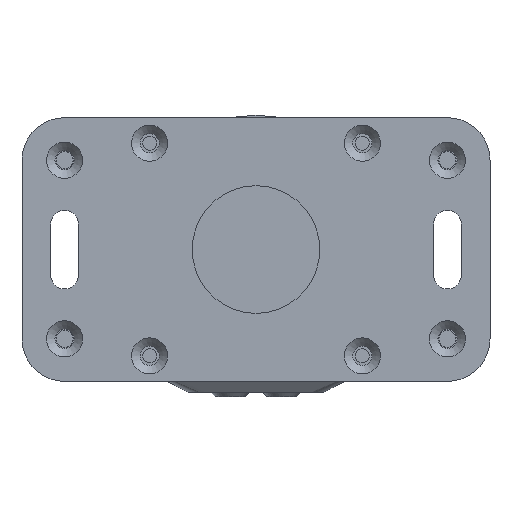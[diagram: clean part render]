
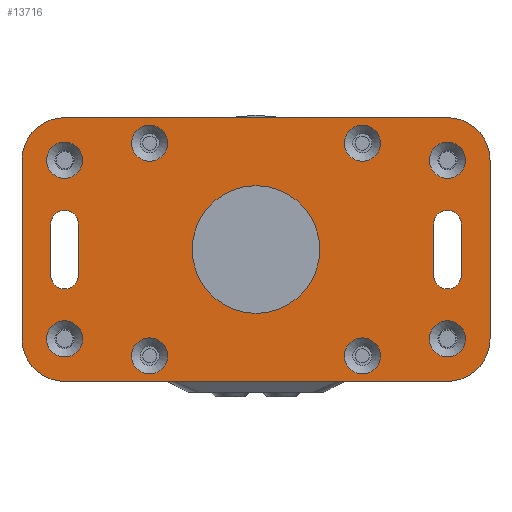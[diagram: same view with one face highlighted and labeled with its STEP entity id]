
A CAD part, front view. The second image highlights one B-rep face of the part: STEP entity #13716.
In plain terms, the highlighted planar face has unit normal (0, -1, 0).
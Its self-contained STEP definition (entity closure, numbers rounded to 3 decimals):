
#3291=LINE('',#50273,#5342);
#3292=LINE('',#50278,#5343);
#3293=LINE('',#50282,#5344);
#3294=LINE('',#50286,#5345);
#3295=LINE('',#50292,#5346);
#3296=LINE('',#50296,#5347);
#3297=LINE('',#50300,#5348);
#3298=LINE('',#50304,#5349);
#5342=VECTOR('',#42226,1.);
#5343=VECTOR('',#42229,1.);
#5344=VECTOR('',#42232,1.);
#5345=VECTOR('',#42235,1.);
#5346=VECTOR('',#42240,1.);
#5347=VECTOR('',#42243,1.);
#5348=VECTOR('',#42246,1.);
#5349=VECTOR('',#42249,1.);
#13716=ADVANCED_FACE('',(#16637,#16638,#16639,#16640,#16641,#16642,#16643,
#16644,#16645,#16646,#16647,#16648),#15780,.T.);
#15780=PLANE('',#39243);
#16637=FACE_BOUND('',#17196,.T.);
#16638=FACE_BOUND('',#17197,.T.);
#16639=FACE_BOUND('',#17198,.T.);
#16640=FACE_BOUND('',#17199,.T.);
#16641=FACE_BOUND('',#17200,.T.);
#16642=FACE_BOUND('',#17201,.T.);
#16643=FACE_BOUND('',#17202,.T.);
#16644=FACE_BOUND('',#17203,.T.);
#16645=FACE_BOUND('',#17204,.T.);
#16646=FACE_BOUND('',#17205,.T.);
#16647=FACE_BOUND('',#17206,.T.);
#16648=FACE_BOUND('',#17207,.T.);
#17196=EDGE_LOOP('',(#19593,#19594,#19595,#19596,#19597,#19598,#19599,#19600));
#17197=EDGE_LOOP('',(#19601,#19602,#19603,#19604));
#17198=EDGE_LOOP('',(#19605,#19606,#19607,#19608));
#17199=EDGE_LOOP('',(#19609));
#17200=EDGE_LOOP('',(#19610));
#17201=EDGE_LOOP('',(#19611));
#17202=EDGE_LOOP('',(#19612));
#17203=EDGE_LOOP('',(#19613));
#17204=EDGE_LOOP('',(#19614));
#17205=EDGE_LOOP('',(#19615));
#17206=EDGE_LOOP('',(#19616));
#17207=EDGE_LOOP('',(#19617));
#19593=ORIENTED_EDGE('',*,*,#32395,.T.);
#19594=ORIENTED_EDGE('',*,*,#32396,.T.);
#19595=ORIENTED_EDGE('',*,*,#32397,.T.);
#19596=ORIENTED_EDGE('',*,*,#32398,.T.);
#19597=ORIENTED_EDGE('',*,*,#32399,.T.);
#19598=ORIENTED_EDGE('',*,*,#32400,.T.);
#19599=ORIENTED_EDGE('',*,*,#32401,.T.);
#19600=ORIENTED_EDGE('',*,*,#32402,.T.);
#19601=ORIENTED_EDGE('',*,*,#32403,.F.);
#19602=ORIENTED_EDGE('',*,*,#32404,.F.);
#19603=ORIENTED_EDGE('',*,*,#32405,.F.);
#19604=ORIENTED_EDGE('',*,*,#32406,.F.);
#19605=ORIENTED_EDGE('',*,*,#32407,.F.);
#19606=ORIENTED_EDGE('',*,*,#32408,.F.);
#19607=ORIENTED_EDGE('',*,*,#32409,.F.);
#19608=ORIENTED_EDGE('',*,*,#32410,.F.);
#19609=ORIENTED_EDGE('',*,*,#32411,.F.);
#19610=ORIENTED_EDGE('',*,*,#32394,.T.);
#19611=ORIENTED_EDGE('',*,*,#32412,.T.);
#19612=ORIENTED_EDGE('',*,*,#32413,.T.);
#19613=ORIENTED_EDGE('',*,*,#32414,.T.);
#19614=ORIENTED_EDGE('',*,*,#32415,.T.);
#19615=ORIENTED_EDGE('',*,*,#32416,.T.);
#19616=ORIENTED_EDGE('',*,*,#32417,.T.);
#19617=ORIENTED_EDGE('',*,*,#32418,.T.);
#29312=VERTEX_POINT('',#50271);
#29313=VERTEX_POINT('',#50274);
#29314=VERTEX_POINT('',#50275);
#29315=VERTEX_POINT('',#50277);
#29316=VERTEX_POINT('',#50279);
#29317=VERTEX_POINT('',#50281);
#29318=VERTEX_POINT('',#50283);
#29319=VERTEX_POINT('',#50285);
#29320=VERTEX_POINT('',#50287);
#29321=VERTEX_POINT('',#50290);
#29322=VERTEX_POINT('',#50291);
#29323=VERTEX_POINT('',#50293);
#29324=VERTEX_POINT('',#50295);
#29325=VERTEX_POINT('',#50298);
#29326=VERTEX_POINT('',#50299);
#29327=VERTEX_POINT('',#50301);
#29328=VERTEX_POINT('',#50303);
#29329=VERTEX_POINT('',#50306);
#29330=VERTEX_POINT('',#50308);
#29331=VERTEX_POINT('',#50310);
#29332=VERTEX_POINT('',#50312);
#29333=VERTEX_POINT('',#50314);
#29334=VERTEX_POINT('',#50316);
#29335=VERTEX_POINT('',#50318);
#29336=VERTEX_POINT('',#50320);
#32394=EDGE_CURVE('',#29312,#29312,#37250,.T.);
#32395=EDGE_CURVE('',#29313,#29314,#3291,.T.);
#32396=EDGE_CURVE('',#29314,#29315,#37251,.T.);
#32397=EDGE_CURVE('',#29315,#29316,#3292,.T.);
#32398=EDGE_CURVE('',#29316,#29317,#37252,.T.);
#32399=EDGE_CURVE('',#29317,#29318,#3293,.T.);
#32400=EDGE_CURVE('',#29318,#29319,#37253,.T.);
#32401=EDGE_CURVE('',#29319,#29320,#3294,.T.);
#32402=EDGE_CURVE('',#29320,#29313,#37254,.T.);
#32403=EDGE_CURVE('',#29321,#29322,#37255,.T.);
#32404=EDGE_CURVE('',#29323,#29321,#3295,.T.);
#32405=EDGE_CURVE('',#29324,#29323,#37256,.T.);
#32406=EDGE_CURVE('',#29322,#29324,#3296,.T.);
#32407=EDGE_CURVE('',#29325,#29326,#37257,.T.);
#32408=EDGE_CURVE('',#29327,#29325,#3297,.T.);
#32409=EDGE_CURVE('',#29328,#29327,#37258,.T.);
#32410=EDGE_CURVE('',#29326,#29328,#3298,.T.);
#32411=EDGE_CURVE('',#29329,#29329,#37259,.T.);
#32412=EDGE_CURVE('',#29330,#29330,#37260,.T.);
#32413=EDGE_CURVE('',#29331,#29331,#37261,.T.);
#32414=EDGE_CURVE('',#29332,#29332,#37262,.T.);
#32415=EDGE_CURVE('',#29333,#29333,#37263,.T.);
#32416=EDGE_CURVE('',#29334,#29334,#37264,.T.);
#32417=EDGE_CURVE('',#29335,#29335,#37265,.T.);
#32418=EDGE_CURVE('',#29336,#29336,#37266,.T.);
#37250=CIRCLE('',#39225,4.25);
#37251=CIRCLE('',#39227,10.);
#37252=CIRCLE('',#39228,10.);
#37253=CIRCLE('',#39229,10.);
#37254=CIRCLE('',#39230,10.);
#37255=CIRCLE('',#39231,3.25);
#37256=CIRCLE('',#39232,3.25);
#37257=CIRCLE('',#39233,3.25);
#37258=CIRCLE('',#39234,3.25);
#37259=CIRCLE('',#39235,15.);
#37260=CIRCLE('',#39236,4.25);
#37261=CIRCLE('',#39237,4.25);
#37262=CIRCLE('',#39238,4.25);
#37263=CIRCLE('',#39239,4.25);
#37264=CIRCLE('',#39240,4.25);
#37265=CIRCLE('',#39241,4.25);
#37266=CIRCLE('',#39242,4.25);
#39225=AXIS2_PLACEMENT_3D('',#50270,#42222,#42223);
#39227=AXIS2_PLACEMENT_3D('',#50276,#42227,#42228);
#39228=AXIS2_PLACEMENT_3D('',#50280,#42230,#42231);
#39229=AXIS2_PLACEMENT_3D('',#50284,#42233,#42234);
#39230=AXIS2_PLACEMENT_3D('',#50288,#42236,#42237);
#39231=AXIS2_PLACEMENT_3D('',#50289,#42238,#42239);
#39232=AXIS2_PLACEMENT_3D('',#50294,#42241,#42242);
#39233=AXIS2_PLACEMENT_3D('',#50297,#42244,#42245);
#39234=AXIS2_PLACEMENT_3D('',#50302,#42247,#42248);
#39235=AXIS2_PLACEMENT_3D('',#50305,#42250,#42251);
#39236=AXIS2_PLACEMENT_3D('',#50307,#42252,#42253);
#39237=AXIS2_PLACEMENT_3D('',#50309,#42254,#42255);
#39238=AXIS2_PLACEMENT_3D('',#50311,#42256,#42257);
#39239=AXIS2_PLACEMENT_3D('',#50313,#42258,#42259);
#39240=AXIS2_PLACEMENT_3D('',#50315,#42260,#42261);
#39241=AXIS2_PLACEMENT_3D('',#50317,#42262,#42263);
#39242=AXIS2_PLACEMENT_3D('',#50319,#42264,#42265);
#39243=AXIS2_PLACEMENT_3D('',#50321,#42266,#42267);
#42222=DIRECTION('',(0.,1.,0.));
#42223=DIRECTION('',(-1.,0.,0.));
#42226=DIRECTION('',(-1.,0.,0.));
#42227=DIRECTION('',(0.,-1.,0.));
#42228=DIRECTION('',(0.,0.,1.));
#42229=DIRECTION('',(0.,0.,-1.));
#42230=DIRECTION('',(0.,-1.,0.));
#42231=DIRECTION('',(-1.,0.,0.));
#42232=DIRECTION('',(1.,0.,0.));
#42233=DIRECTION('',(0.,-1.,0.));
#42234=DIRECTION('',(0.,0.,-1.));
#42235=DIRECTION('',(0.,0.,1.));
#42236=DIRECTION('',(0.,-1.,0.));
#42237=DIRECTION('',(1.,0.,0.));
#42238=DIRECTION('',(0.,-1.,0.));
#42239=DIRECTION('',(1.,0.,0.));
#42240=DIRECTION('',(0.,0.,1.));
#42241=DIRECTION('',(0.,-1.,0.));
#42242=DIRECTION('',(-1.,0.,0.));
#42243=DIRECTION('',(0.,0.,-1.));
#42244=DIRECTION('',(0.,-1.,0.));
#42245=DIRECTION('',(1.,0.,0.));
#42246=DIRECTION('',(0.,0.,1.));
#42247=DIRECTION('',(0.,-1.,0.));
#42248=DIRECTION('',(-1.,0.,0.));
#42249=DIRECTION('',(0.,0.,-1.));
#42250=DIRECTION('',(0.,-1.,0.));
#42251=DIRECTION('',(-1.,0.,0.));
#42252=DIRECTION('',(0.,1.,0.));
#42253=DIRECTION('',(-1.,0.,0.));
#42254=DIRECTION('',(0.,1.,0.));
#42255=DIRECTION('',(-1.,0.,0.));
#42256=DIRECTION('',(0.,1.,0.));
#42257=DIRECTION('',(-1.,0.,0.));
#42258=DIRECTION('',(0.,1.,0.));
#42259=DIRECTION('',(-1.,0.,0.));
#42260=DIRECTION('',(0.,1.,0.));
#42261=DIRECTION('',(-1.,0.,0.));
#42262=DIRECTION('',(0.,1.,0.));
#42263=DIRECTION('',(-1.,0.,0.));
#42264=DIRECTION('',(0.,1.,0.));
#42265=DIRECTION('',(-1.,0.,0.));
#42266=DIRECTION('',(0.,-1.,0.));
#42267=DIRECTION('',(1.,0.,0.));
#50270=CARTESIAN_POINT('',(-25.,-4.,-6.));
#50271=CARTESIAN_POINT('',(-29.25,-4.,-6.));
#50273=CARTESIAN_POINT('',(45.,-4.,0.));
#50274=CARTESIAN_POINT('',(45.,-4.,0.));
#50275=CARTESIAN_POINT('',(-45.,-4.,0.));
#50276=CARTESIAN_POINT('',(-45.,-4.,-10.));
#50277=CARTESIAN_POINT('',(-55.,-4.,-10.));
#50278=CARTESIAN_POINT('',(-55.,-4.,-10.));
#50279=CARTESIAN_POINT('',(-55.,-4.,-52.));
#50280=CARTESIAN_POINT('',(-45.,-4.,-52.));
#50281=CARTESIAN_POINT('',(-45.,-4.,-62.));
#50282=CARTESIAN_POINT('',(-45.,-4.,-62.));
#50283=CARTESIAN_POINT('',(45.,-4.,-62.));
#50284=CARTESIAN_POINT('',(45.,-4.,-52.));
#50285=CARTESIAN_POINT('',(55.,-4.,-52.));
#50286=CARTESIAN_POINT('',(55.,-4.,-52.));
#50287=CARTESIAN_POINT('',(55.,-4.,-10.));
#50288=CARTESIAN_POINT('',(45.,-4.,-10.));
#50289=CARTESIAN_POINT('',(-45.,-4.,-25.));
#50290=CARTESIAN_POINT('',(-41.75,-4.,-25.));
#50291=CARTESIAN_POINT('',(-48.25,-4.,-25.));
#50292=CARTESIAN_POINT('',(-41.75,-4.,-37.));
#50293=CARTESIAN_POINT('',(-41.75,-4.,-37.));
#50294=CARTESIAN_POINT('',(-45.,-4.,-37.));
#50295=CARTESIAN_POINT('',(-48.25,-4.,-37.));
#50296=CARTESIAN_POINT('',(-48.25,-4.,-25.));
#50297=CARTESIAN_POINT('',(45.,-4.,-25.));
#50298=CARTESIAN_POINT('',(48.25,-4.,-25.));
#50299=CARTESIAN_POINT('',(41.75,-4.,-25.));
#50300=CARTESIAN_POINT('',(48.25,-4.,-37.));
#50301=CARTESIAN_POINT('',(48.25,-4.,-37.));
#50302=CARTESIAN_POINT('',(45.,-4.,-37.));
#50303=CARTESIAN_POINT('',(41.75,-4.,-37.));
#50304=CARTESIAN_POINT('',(41.75,-4.,-25.));
#50305=CARTESIAN_POINT('',(0.,-4.,-31.));
#50306=CARTESIAN_POINT('',(-15.,-4.,-31.));
#50307=CARTESIAN_POINT('',(-45.,-4.,-10.));
#50308=CARTESIAN_POINT('',(-49.25,-4.,-10.));
#50309=CARTESIAN_POINT('',(25.,-4.,-6.));
#50310=CARTESIAN_POINT('',(20.75,-4.,-6.));
#50311=CARTESIAN_POINT('',(45.,-4.,-10.));
#50312=CARTESIAN_POINT('',(40.75,-4.,-10.));
#50313=CARTESIAN_POINT('',(45.,-4.,-52.));
#50314=CARTESIAN_POINT('',(40.75,-4.,-52.));
#50315=CARTESIAN_POINT('',(25.,-4.,-56.));
#50316=CARTESIAN_POINT('',(20.75,-4.,-56.));
#50317=CARTESIAN_POINT('',(-25.,-4.,-56.));
#50318=CARTESIAN_POINT('',(-29.25,-4.,-56.));
#50319=CARTESIAN_POINT('',(-45.,-4.,-52.));
#50320=CARTESIAN_POINT('',(-49.25,-4.,-52.));
#50321=CARTESIAN_POINT('',(0.,-4.,-31.));
